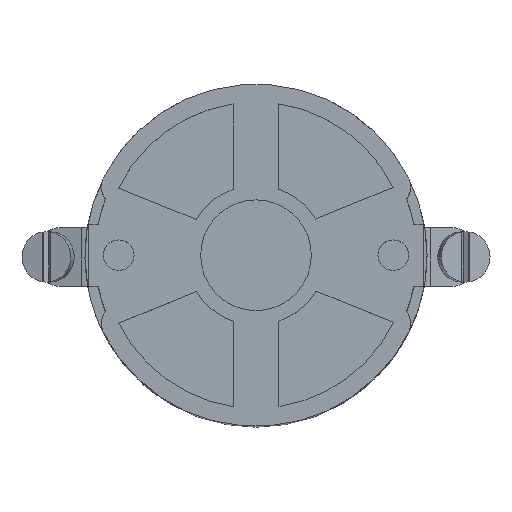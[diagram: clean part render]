
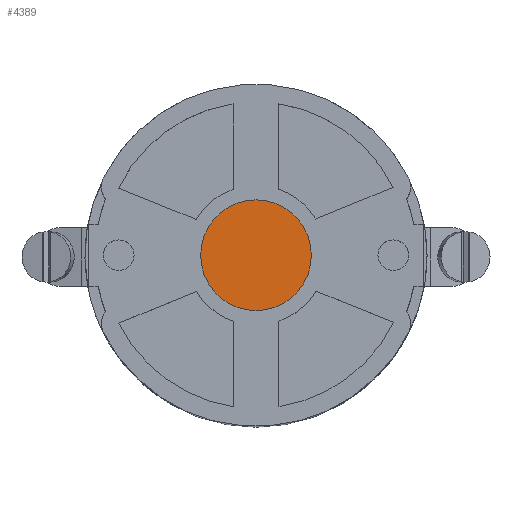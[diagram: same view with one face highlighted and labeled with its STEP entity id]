
A CAD part, top view. The second image highlights one B-rep face of the part: STEP entity #4389.
In plain terms, the highlighted planar face has unit normal (0, 0, 1).
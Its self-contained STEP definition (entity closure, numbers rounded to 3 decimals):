
#600=FACE_OUTER_BOUND('',#6044,.T.);
#4389=ADVANCED_FACE('',(#600),#5164,.T.);
#5164=PLANE('',#15737);
#6044=EDGE_LOOP('',(#7546));
#7546=ORIENTED_EDGE('',*,*,#13198,.F.);
#11575=VERTEX_POINT('',#21811);
#13198=EDGE_CURVE('',#11575,#11575,#15119,.T.);
#15119=CIRCLE('',#15736,6.15);
#15736=AXIS2_PLACEMENT_3D('',#21810,#17628,#17629);
#15737=AXIS2_PLACEMENT_3D('',#21812,#17630,#17631);
#17628=DIRECTION('',(0.,0.,-1.));
#17629=DIRECTION('',(1.,0.,0.));
#17630=DIRECTION('',(0.,0.,1.));
#17631=DIRECTION('',(1.,0.,0.));
#21810=CARTESIAN_POINT('',(0.,0.,50.9));
#21811=CARTESIAN_POINT('',(6.15,0.,50.9));
#21812=CARTESIAN_POINT('',(0.,0.,50.9));
